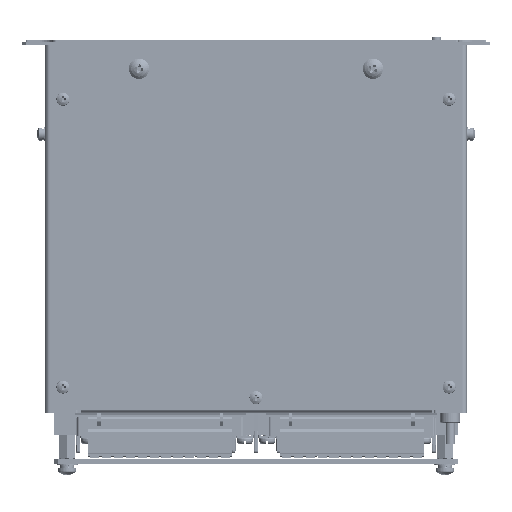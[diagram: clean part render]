
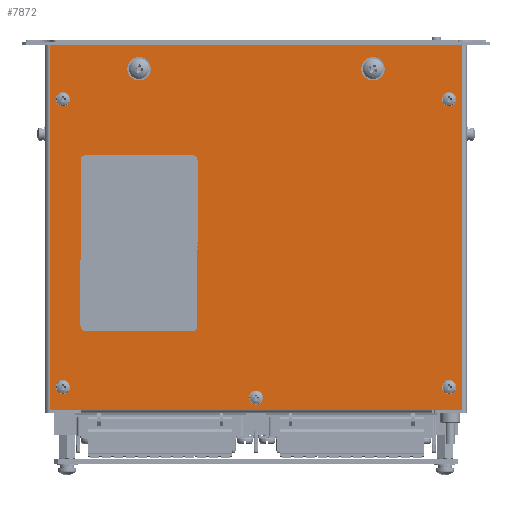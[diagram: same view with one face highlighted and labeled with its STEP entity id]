
A CAD part, left-side view. The second image highlights one B-rep face of the part: STEP entity #7872.
In plain terms, the highlighted planar face has unit normal (-1, 0, 0) as drawn and (0, 0, 1) by its records, which use the part's own axes.
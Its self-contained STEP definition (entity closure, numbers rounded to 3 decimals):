
#7872=ADVANCED_FACE('',(#273587,#273589,#273591,#273593,#273595,#273597,#273599,
#273601),#273603,.T.);
#273587=FACE_BOUND('',#273588,.T.);
#273588=EDGE_LOOP('',(#496513,#496514,#496515,#496516));
#273589=FACE_BOUND('',#273590,.T.);
#273590=EDGE_LOOP('',(#496517));
#273591=FACE_BOUND('',#273592,.T.);
#273592=EDGE_LOOP('',(#496518));
#273593=FACE_BOUND('',#273594,.T.);
#273594=EDGE_LOOP('',(#496519));
#273595=FACE_BOUND('',#273596,.T.);
#273596=EDGE_LOOP('',(#496520));
#273597=FACE_BOUND('',#273598,.T.);
#273598=EDGE_LOOP('',(#496521));
#273599=FACE_BOUND('',#273600,.T.);
#273600=EDGE_LOOP('',(#496522));
#273601=FACE_BOUND('',#273602,.T.);
#273602=EDGE_LOOP('',(#496523));
#273603=PLANE('',#273604);
#273604=AXIS2_PLACEMENT_3D('',#273605,#273606,#273607);
#273605=CARTESIAN_POINT('',(0.,0.,1.));
#273606=DIRECTION('',(0.,0.,1.));
#273607=DIRECTION('',(1.,0.,0.));
#496513=ORIENTED_EDGE('',*,*,#681240,.T.);
#496514=ORIENTED_EDGE('',*,*,#681241,.T.);
#496515=ORIENTED_EDGE('',*,*,#681242,.T.);
#496516=ORIENTED_EDGE('',*,*,#681243,.T.);
#496517=ORIENTED_EDGE('',*,*,#681244,.T.);
#496518=ORIENTED_EDGE('',*,*,#681245,.T.);
#496519=ORIENTED_EDGE('',*,*,#681246,.T.);
#496520=ORIENTED_EDGE('',*,*,#681247,.T.);
#496521=ORIENTED_EDGE('',*,*,#681248,.T.);
#496522=ORIENTED_EDGE('',*,*,#681249,.T.);
#496523=ORIENTED_EDGE('',*,*,#681250,.T.);
#681240=EDGE_CURVE('',#769616,#769617,#769618,.T.);
#681241=EDGE_CURVE('',#769617,#769619,#769620,.T.);
#681242=EDGE_CURVE('',#769619,#769621,#769622,.T.);
#681243=EDGE_CURVE('',#769621,#769616,#769623,.T.);
#681244=EDGE_CURVE('',#769624,#769624,#769625,.F.);
#681245=EDGE_CURVE('',#769626,#769626,#769627,.F.);
#681246=EDGE_CURVE('',#769628,#769628,#769629,.F.);
#681247=EDGE_CURVE('',#769630,#769630,#769631,.F.);
#681248=EDGE_CURVE('',#769632,#769632,#769633,.F.);
#681249=EDGE_CURVE('',#769634,#769634,#769635,.F.);
#681250=EDGE_CURVE('',#769636,#769636,#769637,.F.);
#769616=VERTEX_POINT('',#915923);
#769617=VERTEX_POINT('',#915924);
#769618=LINE('',#915925,#915926);
#769619=VERTEX_POINT('',#915928);
#769620=LINE('',#915929,#915930);
#769621=VERTEX_POINT('',#915932);
#769622=LINE('',#915933,#915934);
#769623=LINE('',#915936,#915937);
#769624=VERTEX_POINT('',#915939);
#769625=CIRCLE('',#915940,1.75);
#769626=VERTEX_POINT('',#915944);
#769627=CIRCLE('',#915945,2.25);
#769628=VERTEX_POINT('',#915949);
#769629=CIRCLE('',#915950,2.25);
#769630=VERTEX_POINT('',#915954);
#769631=CIRCLE('',#915955,1.75);
#769632=VERTEX_POINT('',#915959);
#769633=CIRCLE('',#915960,1.75);
#769634=VERTEX_POINT('',#915964);
#769635=CIRCLE('',#915965,1.75);
#769636=VERTEX_POINT('',#915969);
#769637=CIRCLE('',#915970,1.75);
#915923=CARTESIAN_POINT('',(78.,88.,1.));
#915924=CARTESIAN_POINT('',(-78.,88.,1.));
#915925=CARTESIAN_POINT('',(78.,88.,1.));
#915926=VECTOR('',#915927,1.);
#915927=DIRECTION('',(-1.,0.,0.));
#915928=CARTESIAN_POINT('',(-78.,-88.,1.));
#915929=CARTESIAN_POINT('',(-78.,88.,1.));
#915930=VECTOR('',#915931,1.);
#915931=DIRECTION('',(0.,-1.,0.));
#915932=CARTESIAN_POINT('',(78.,-88.,1.));
#915933=CARTESIAN_POINT('',(-78.,-88.,1.));
#915934=VECTOR('',#915935,1.);
#915935=DIRECTION('',(1.,0.,0.));
#915936=CARTESIAN_POINT('',(78.,-88.,1.));
#915937=VECTOR('',#915938,1.);
#915938=DIRECTION('',(0.,1.,0.));
#915939=CARTESIAN_POINT('',(74.25,0.,1.));
#915940=AXIS2_PLACEMENT_3D('',#915941,#915942,#915943);
#915941=CARTESIAN_POINT('',(72.5,0.,1.));
#915942=DIRECTION('',(0.,0.,1.));
#915943=DIRECTION('',(1.,0.,0.));
#915944=CARTESIAN_POINT('',(-65.75,50.,1.));
#915945=AXIS2_PLACEMENT_3D('',#915946,#915947,#915948);
#915946=CARTESIAN_POINT('',(-68.,50.,1.));
#915947=DIRECTION('',(0.,0.,1.));
#915948=DIRECTION('',(1.,0.,0.));
#915949=CARTESIAN_POINT('',(-65.75,-50.,1.));
#915950=AXIS2_PLACEMENT_3D('',#915951,#915952,#915953);
#915951=CARTESIAN_POINT('',(-68.,-50.,1.));
#915952=DIRECTION('',(0.,0.,1.));
#915953=DIRECTION('',(1.,0.,0.));
#915954=CARTESIAN_POINT('',(-53.25,82.5,1.));
#915955=AXIS2_PLACEMENT_3D('',#915956,#915957,#915958);
#915956=CARTESIAN_POINT('',(-55.,82.5,1.));
#915957=DIRECTION('',(0.,0.,1.));
#915958=DIRECTION('',(1.,0.,0.));
#915959=CARTESIAN_POINT('',(69.75,82.5,1.));
#915960=AXIS2_PLACEMENT_3D('',#915961,#915962,#915963);
#915961=CARTESIAN_POINT('',(68.,82.5,1.));
#915962=DIRECTION('',(0.,0.,1.));
#915963=DIRECTION('',(1.,0.,0.));
#915964=CARTESIAN_POINT('',(-53.25,-82.5,1.));
#915965=AXIS2_PLACEMENT_3D('',#915966,#915967,#915968);
#915966=CARTESIAN_POINT('',(-55.,-82.5,1.));
#915967=DIRECTION('',(0.,0.,1.));
#915968=DIRECTION('',(1.,0.,0.));
#915969=CARTESIAN_POINT('',(69.75,-82.5,1.));
#915970=AXIS2_PLACEMENT_3D('',#915971,#915972,#915973);
#915971=CARTESIAN_POINT('',(68.,-82.5,1.));
#915972=DIRECTION('',(0.,0.,1.));
#915973=DIRECTION('',(1.,0.,0.));
